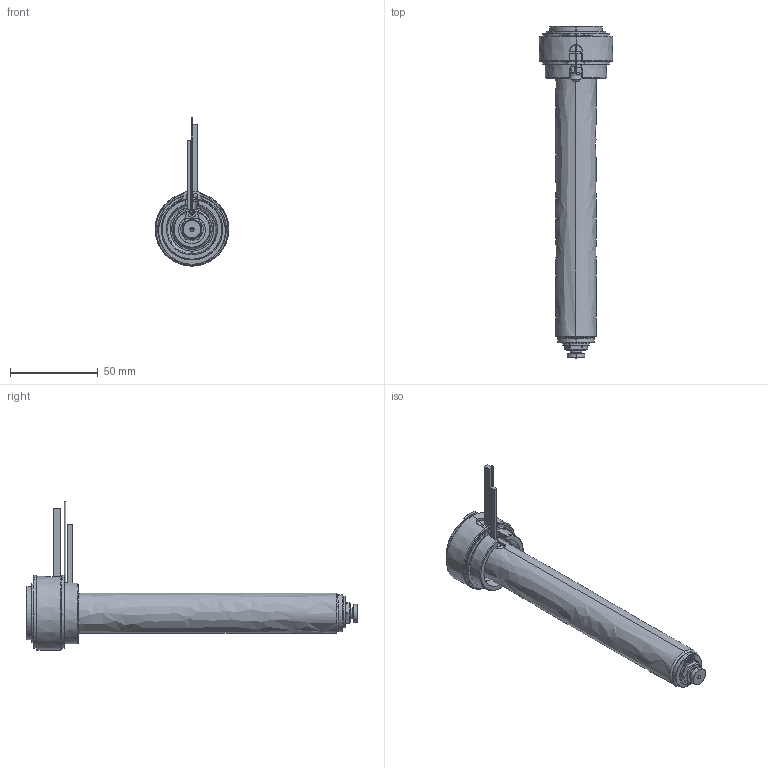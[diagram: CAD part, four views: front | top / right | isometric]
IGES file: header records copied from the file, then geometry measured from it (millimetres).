
Start section: SolidWorks IGES file using analytic representation for surfaces
Global section: file name: C:\Users\luca.EMPAD\Desktop\TEM\UGBE3504-M-A-5 [Ød-1.0 P-0 ØC-7.0].IGS; native system: SolidWorks 2012; preprocessor: SolidWorks 2012; author: luca; date: 120330.140552; units: millimetre
Bounding box: 42 x 189 x 84.4 mm (x, y, z)
Surface area: 34989 mm2 (no closed solid volume)
Topology: 0 solids, 0 shells, 181 faces, 3216 edges, 3216 vertices
Faces by surface type: revolution 116, bspline 65
